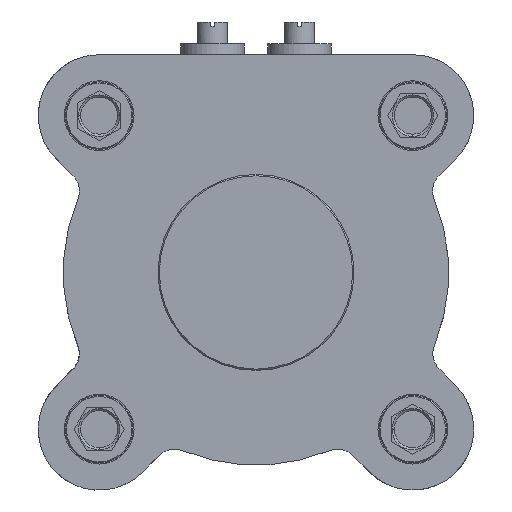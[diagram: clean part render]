
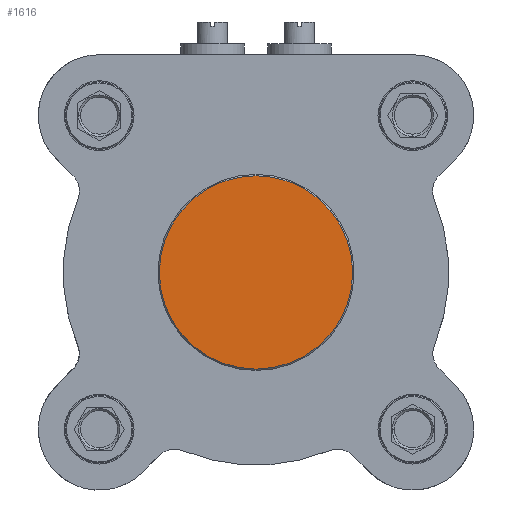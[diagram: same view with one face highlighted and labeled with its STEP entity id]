
A CAD part, left-side view. The second image highlights one B-rep face of the part: STEP entity #1616.
In plain terms, the highlighted planar face has unit normal (-1, 0, 0) as drawn and (0, -1, 0) by its records, which use the part's own axes.
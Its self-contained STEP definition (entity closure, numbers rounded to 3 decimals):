
#1616=ADVANCED_FACE('21:18869',(#3312),#3313,.T.);
#3312=FACE_OUTER_BOUND('',#5061,.T.);
#3313=PLANE('',#5062);
#5061=EDGE_LOOP('',(#9362,#9363));
#5062=AXIS2_PLACEMENT_3D('',#9364,#9365,#9366);
#9362=ORIENTED_EDGE('',*,*,#11503,.F.);
#9363=ORIENTED_EDGE('',*,*,#11499,.F.);
#9364=CARTESIAN_POINT('',(0.,105.5,0.));
#9365=DIRECTION('',(0.,-1.0,0.));
#9366=DIRECTION('',(0.,0.,-1.0));
#11499=EDGE_CURVE('',#13986,#13988,#13989,.T.);
#11503=EDGE_CURVE('24:2543',#13988,#13986,#13993,.T.);
#13986=VERTEX_POINT('',#17423);
#13988=VERTEX_POINT('',#17426);
#13989=CIRCLE('',#17427,22.2);
#13993=CIRCLE('',#17432,22.2);
#17423=CARTESIAN_POINT('',(22.2,105.5,0.));
#17426=CARTESIAN_POINT('',(-22.2,105.5,0.));
#17427=AXIS2_PLACEMENT_3D('',#20078,#20079,#20080);
#17432=AXIS2_PLACEMENT_3D('',#20085,#20086,#20087);
#20078=CARTESIAN_POINT('',(0.,105.5,0.));
#20079=DIRECTION('',(0.,1.0,0.));
#20080=DIRECTION('',(1.0,0.,0.));
#20085=CARTESIAN_POINT('',(0.,105.5,0.));
#20086=DIRECTION('',(0.,1.0,0.));
#20087=DIRECTION('',(1.0,0.,0.));
